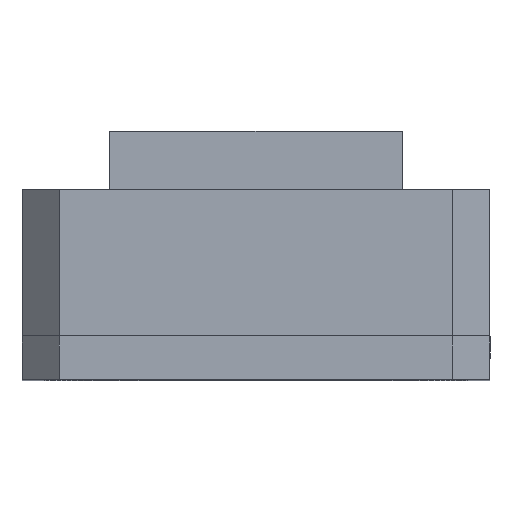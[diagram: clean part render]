
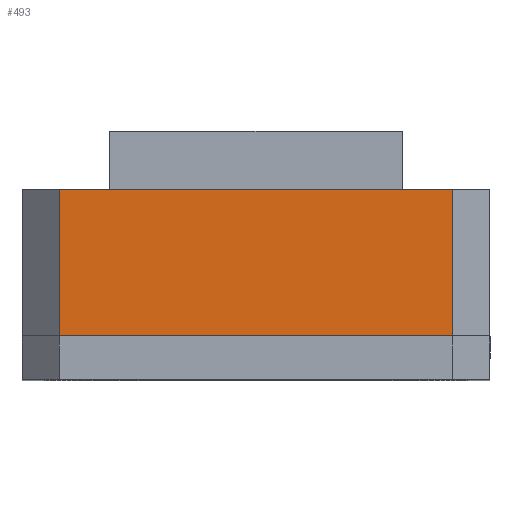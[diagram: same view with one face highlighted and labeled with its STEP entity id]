
A CAD part, top view. The second image highlights one B-rep face of the part: STEP entity #493.
In plain terms, the highlighted planar face has unit normal (0, 0, 1).
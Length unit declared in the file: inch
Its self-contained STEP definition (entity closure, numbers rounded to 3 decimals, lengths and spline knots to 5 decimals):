
#291 = VERTEX_POINT ( 'NONE', #1564 ) ;
#293 = EDGE_CURVE ( 'NONE', #291, #296, #1563, .T. ) ;
#296 = VERTEX_POINT ( 'NONE', #1554 ) ;
#480 = ORIENTED_EDGE ( 'NONE', *, *, #293, .F. ) ;
#483 = VERTEX_POINT ( 'NONE', #1667 ) ;
#484 = EDGE_CURVE ( 'NONE', #483, #620, #1666, .T. ) ;
#487 = EDGE_CURVE ( 'NONE', #620, #296, #1662, .T. ) ;
#489 = ORIENTED_EDGE ( 'NONE', *, *, #484, .T. ) ;
#491 = ORIENTED_EDGE ( 'NONE', *, *, #487, .T. ) ;
#493 = ADVANCED_FACE ( 'NONE', ( #1658 ), #1656, .F. ) ;
#494 = EDGE_LOOP ( 'NONE', ( #489, #491, #480, #533 ) ) ;
#533 = ORIENTED_EDGE ( 'NONE', *, *, #575, .T. ) ;
#575 = EDGE_CURVE ( 'NONE', #291, #483, #1740, .T. ) ;
#620 = VERTEX_POINT ( 'NONE', #1801 ) ;
#1554 = CARTESIAN_POINT ( 'NONE',  ( -1.68, 0.1875, 2.31 ) ) ;
#1560 = DIRECTION ( 'NONE',  ( -1., 0., 0. ) ) ;
#1561 = VECTOR ( 'NONE', #1560, 39.37008 ) ;
#1562 = CARTESIAN_POINT ( 'NONE',  ( 2., 0.1875, 2.31 ) ) ;
#1563 = LINE ( 'NONE', #1562, #1561 ) ;
#1564 = CARTESIAN_POINT ( 'NONE',  ( 1.68, 0.1875, 2.31 ) ) ;
#1652 = DIRECTION ( 'NONE',  ( -1., 0., 0. ) ) ;
#1653 = DIRECTION ( 'NONE',  ( 0., 0., -1. ) ) ;
#1654 = CARTESIAN_POINT ( 'NONE',  ( 2., 0.1875, 2.31 ) ) ;
#1655 = AXIS2_PLACEMENT_3D ( 'NONE', #1654, #1653, #1652 ) ;
#1656 = PLANE ( 'NONE',  #1655 ) ;
#1658 = FACE_OUTER_BOUND ( 'NONE', #494, .T. ) ;
#1659 = DIRECTION ( 'NONE',  ( 0., -1., 0. ) ) ;
#1660 = VECTOR ( 'NONE', #1659, 39.37008 ) ;
#1661 = CARTESIAN_POINT ( 'NONE',  ( -1.68, 0.1875, 2.31 ) ) ;
#1662 = LINE ( 'NONE', #1661, #1660 ) ;
#1663 = DIRECTION ( 'NONE',  ( -1., 0., 0. ) ) ;
#1664 = VECTOR ( 'NONE', #1663, 39.37008 ) ;
#1665 = CARTESIAN_POINT ( 'NONE',  ( 2., 1.4375, 2.31 ) ) ;
#1666 = LINE ( 'NONE', #1665, #1664 ) ;
#1667 = CARTESIAN_POINT ( 'NONE',  ( 1.68, 1.4375, 2.31 ) ) ;
#1737 = DIRECTION ( 'NONE',  ( 0., 1., 0. ) ) ;
#1738 = VECTOR ( 'NONE', #1737, 39.37008 ) ;
#1739 = CARTESIAN_POINT ( 'NONE',  ( 1.68, 0.1875, 2.31 ) ) ;
#1740 = LINE ( 'NONE', #1739, #1738 ) ;
#1801 = CARTESIAN_POINT ( 'NONE',  ( -1.68, 1.4375, 2.31 ) ) ;
